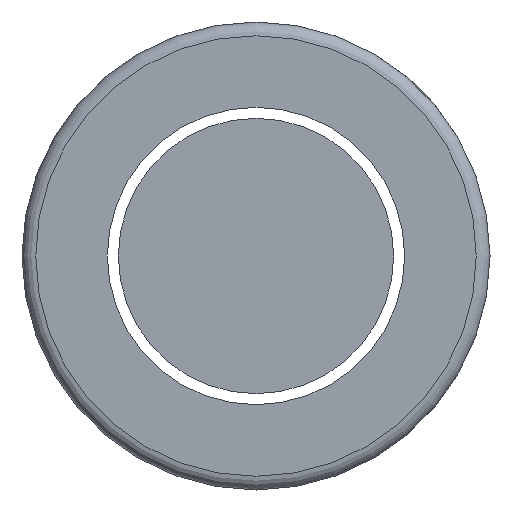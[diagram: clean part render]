
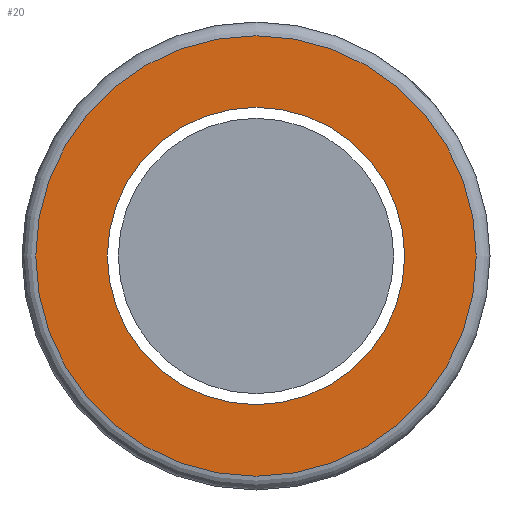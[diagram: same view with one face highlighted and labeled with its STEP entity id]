
A CAD part, left-side view. The second image highlights one B-rep face of the part: STEP entity #20.
In plain terms, the highlighted planar face has unit normal (-1, 0, 0).
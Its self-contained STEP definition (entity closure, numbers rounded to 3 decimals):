
#20 = ADVANCED_FACE ( 'NONE', ( #367, #553 ), #120, .T. ) ;
#51 = CIRCLE ( 'NONE', #399, 10.8 ) ;
#67 = EDGE_LOOP ( 'NONE', ( #265 ) ) ;
#110 = AXIS2_PLACEMENT_3D ( 'NONE', #324, #521, #571 ) ;
#120 = PLANE ( 'NONE',  #110 ) ;
#132 = DIRECTION ( 'NONE',  ( 0., 0., 1. ) ) ;
#144 = EDGE_CURVE ( 'NONE', #273, #273, #51, .T. ) ;
#218 = CARTESIAN_POINT ( 'NONE',  ( -40., 0., -10.8 ) ) ;
#234 = CIRCLE ( 'NONE', #469, 16. ) ;
#265 = ORIENTED_EDGE ( 'NONE', *, *, #144, .T. ) ;
#273 = VERTEX_POINT ( 'NONE', #218 ) ;
#283 = CARTESIAN_POINT ( 'NONE',  ( -40., 0., 0. ) ) ;
#324 = CARTESIAN_POINT ( 'NONE',  ( -40., 17., 0. ) ) ;
#325 = VERTEX_POINT ( 'NONE', #461 ) ;
#367 = FACE_OUTER_BOUND ( 'NONE', #466, .T. ) ;
#375 = DIRECTION ( 'NONE',  ( 1., 0., 0. ) ) ;
#399 = AXIS2_PLACEMENT_3D ( 'NONE', #283, #375, #612 ) ;
#411 = EDGE_CURVE ( 'NONE', #325, #325, #234, .T. ) ;
#461 = CARTESIAN_POINT ( 'NONE',  ( -40., 0., 16. ) ) ;
#466 = EDGE_LOOP ( 'NONE', ( #588 ) ) ;
#469 = AXIS2_PLACEMENT_3D ( 'NONE', #475, #618, #132 ) ;
#475 = CARTESIAN_POINT ( 'NONE',  ( -40., 0., 0. ) ) ;
#521 = DIRECTION ( 'NONE',  ( -1., 0., 0. ) ) ;
#553 = FACE_BOUND ( 'NONE', #67, .T. ) ;
#571 = DIRECTION ( 'NONE',  ( 0., 0., 1. ) ) ;
#588 = ORIENTED_EDGE ( 'NONE', *, *, #411, .T. ) ;
#612 = DIRECTION ( 'NONE',  ( 0., 0., -1. ) ) ;
#618 = DIRECTION ( 'NONE',  ( -1., 0., 0. ) ) ;
